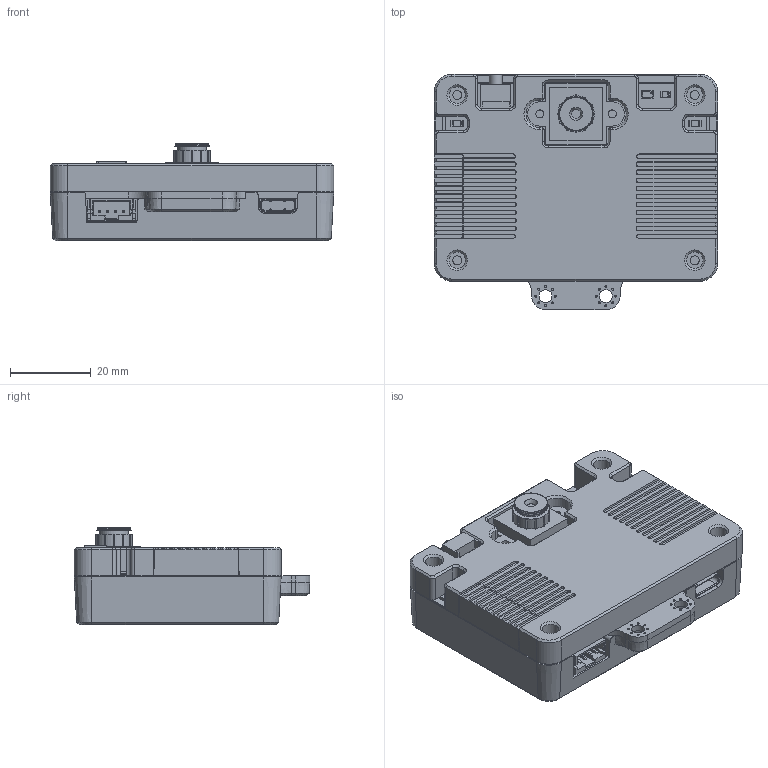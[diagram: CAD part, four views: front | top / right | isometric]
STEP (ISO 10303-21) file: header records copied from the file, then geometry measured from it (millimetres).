
FILE_DESCRIPTION(/* description */ (''),/* implementation_level */ '2;1');
FILE_NAME(/* name */ '',/* time_stamp */ '2025-10-16T16:24:28+08:00',/* author */ (''),/* organization */ (''),/* preprocessor_version */ 'ST-DEVELOPER v20.1',/* originating_system */ 'Autodesk Translation Framework v14.17.0.0',/* authorisation */ '');
FILE_SCHEMA (('AUTOMOTIVE_DESIGN { 1 0 10303 214 3 1 1 }'));
Length unit declared in the file: millimetre
Products named in the file (4): 组装; 零部件51; 零部件52; 零部件53
Assembly tree (3 placements, depth 2):
  组装
    零部件51
    零部件52
    零部件53
Bounding box: 70.39 x 58.49 x 24.21 mm (x, y, z)
Volume: 64961.6 mm3; surface area: 30541.6 mm2
Topology: 3 solids, 4 shells, 1515 faces, 4072 edges, 2574 vertices
Faces by surface type: plane 994, cylinder 254, cone 210, bspline 57
Full cylindrical faces by diameter (mm): 0.5 x16, 2 x2, 2.2 x4, 3.2 x5, 4 x2, 4.1 x4, 7.2 x1
Entity records: 48565 total; most frequent: CARTESIAN_POINT 10219, ORIENTED_EDGE 8128, DIRECTION 7774, EDGE_CURVE 4064, LINE 2954, VECTOR 2954, VERTEX_POINT 2574, AXIS2_PLACEMENT_3D 2410
